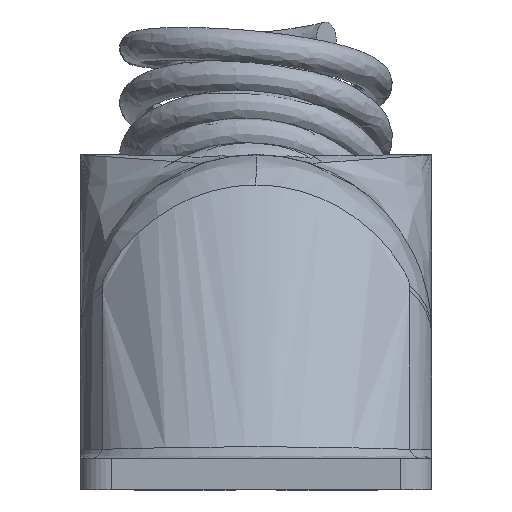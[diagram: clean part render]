
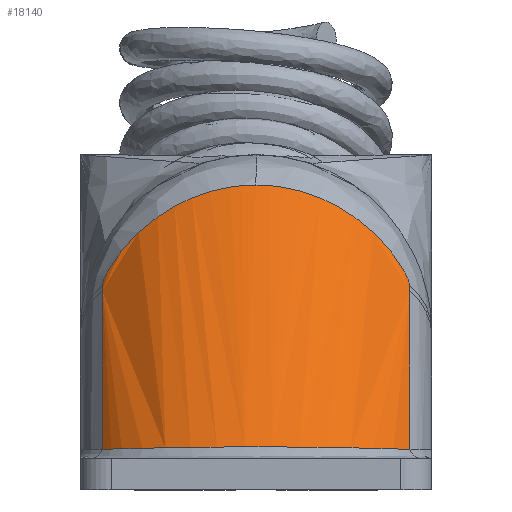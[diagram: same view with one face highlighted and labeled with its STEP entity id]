
A CAD part, left-side view. The second image highlights one B-rep face of the part: STEP entity #18140.
In plain terms, the highlighted free-form (B-spline) face has degree [1, 2] with [2, 9] control points.
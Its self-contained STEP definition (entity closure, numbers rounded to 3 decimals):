
#16518=CARTESIAN_POINT('',(21.853,7.44,1.964));
#16519=VERTEX_POINT('',#16518);
#16737=CARTESIAN_POINT('',(21.853,-7.44,1.964));
#16738=VERTEX_POINT('',#16737);
#16747=CARTESIAN_POINT('',(21.853,-7.44,1.964));
#16748=CARTESIAN_POINT('',(21.843,-7.434,1.964));
#16749=CARTESIAN_POINT('',(21.834,-7.429,1.964));
#16750=CARTESIAN_POINT('',(21.296,-7.123,1.975));
#16751=CARTESIAN_POINT('',(20.806,-6.766,1.986));
#16752=CARTESIAN_POINT('',(20.004,-6.039,2.006));
#16753=CARTESIAN_POINT('',(19.676,-5.683,2.015));
#16754=CARTESIAN_POINT('',(19.087,-4.925,2.032));
#16755=CARTESIAN_POINT('',(18.826,-4.522,2.039));
#16756=CARTESIAN_POINT('',(18.377,-3.68,2.054));
#16757=CARTESIAN_POINT('',(18.188,-3.242,2.06));
#16758=CARTESIAN_POINT('',(17.887,-2.342,2.072));
#16759=CARTESIAN_POINT('',(17.773,-1.88,2.076));
#16760=CARTESIAN_POINT('',(17.623,-0.946,2.084));
#16761=CARTESIAN_POINT('',(17.549,0.,2.088));
#16762=CARTESIAN_POINT('',(17.623,0.946,2.084));
#16763=CARTESIAN_POINT('',(17.773,1.88,2.076));
#16764=CARTESIAN_POINT('',(17.887,2.342,2.072));
#16765=CARTESIAN_POINT('',(18.188,3.242,2.06));
#16766=CARTESIAN_POINT('',(18.377,3.68,2.054));
#16767=CARTESIAN_POINT('',(18.826,4.522,2.039));
#16768=CARTESIAN_POINT('',(19.087,4.925,2.032));
#16769=CARTESIAN_POINT('',(19.676,5.683,2.015));
#16770=CARTESIAN_POINT('',(20.004,6.039,2.006));
#16771=CARTESIAN_POINT('',(20.806,6.766,1.986));
#16772=CARTESIAN_POINT('',(21.296,7.123,1.975));
#16773=CARTESIAN_POINT('',(21.834,7.429,1.964));
#16774=CARTESIAN_POINT('',(21.843,7.434,1.964));
#16775=CARTESIAN_POINT('',(21.853,7.44,1.964));
#16776=B_SPLINE_CURVE_WITH_KNOTS('',3,(#16747,#16748,#16749,#16750,#16751,#16752,#16753,#16754,#16755,#16756,#16757,#16758,#16759,#16760,#16761,#16762,#16763,#16764,#16765,#16766,#16767,#16768,#16769,#16770,#16771,#16772,#16773,#16774,#16775),.UNSPECIFIED.,.F.,.U.,(4,2,2,2,2,2,2,1,2,2,2,2,2,2,4),(-2.496,-2.493,-2.292,-2.128,-1.963,-1.797,-1.632,-1.467,-1.302,-1.136,-0.971,-0.806,-0.642,-0.441,-0.437),.UNSPECIFIED.);
#16777=EDGE_CURVE('',#16738,#16519,#16776,.T.);
#17455=CARTESIAN_POINT('',(29.523,-7.44,9.634));
#17456=VERTEX_POINT('',#17455);
#17464=CARTESIAN_POINT('',(21.853,-7.44,1.964));
#17465=DIRECTION('',(0.707,0.,0.707));
#17466=VECTOR('',#17465,10.848);
#17467=LINE('',#17464,#17466);
#17468=EDGE_CURVE('',#16738,#17456,#17467,.T.);
#17624=CARTESIAN_POINT('',(30.236,0.,14.736));
#17625=VERTEX_POINT('',#17624);
#17633=CARTESIAN_POINT('',(29.756,-7.431,9.884));
#17634=VERTEX_POINT('',#17633);
#17635=CARTESIAN_POINT('',(29.756,-7.431,9.884));
#17636=CARTESIAN_POINT('',(29.941,-7.416,10.095));
#17637=CARTESIAN_POINT('',(30.047,-7.097,10.779));
#17638=CARTESIAN_POINT('',(30.104,-6.022,12.221));
#17639=CARTESIAN_POINT('',(30.179,-4.209,13.744));
#17640=CARTESIAN_POINT('',(30.228,-1.932,14.605));
#17641=CARTESIAN_POINT('',(30.236,-0.484,14.736));
#17642=CARTESIAN_POINT('',(30.236,0.,14.736));
#17643=B_SPLINE_CURVE_WITH_KNOTS('',3,(#17635,#17636,#17637,#17638,#17639,#17640,#17641,#17642),.UNSPECIFIED.,.F.,.U.,(4,1,1,1,1,4),(0.0,0.084,0.168,0.336,0.504,0.588),.UNSPECIFIED.);
#17644=EDGE_CURVE('',#17634,#17625,#17643,.T.);
#17695=CARTESIAN_POINT('',(29.523,-7.44,9.634));
#17696=CARTESIAN_POINT('',(29.603,-7.44,9.715));
#17697=CARTESIAN_POINT('',(29.681,-7.436,9.798));
#17698=CARTESIAN_POINT('',(29.756,-7.431,9.884));
#17699=B_SPLINE_CURVE_WITH_KNOTS('',3,(#17695,#17696,#17697,#17698),.UNSPECIFIED.,.F.,.U.,(4,4),(0.,0.034),.UNSPECIFIED.);
#17700=EDGE_CURVE('',#17456,#17634,#17699,.T.);
#18014=CARTESIAN_POINT('',(29.756,7.431,9.884));
#18015=VERTEX_POINT('',#18014);
#18023=CARTESIAN_POINT('',(29.756,7.431,9.884));
#18024=CARTESIAN_POINT('',(29.941,7.416,10.095));
#18025=CARTESIAN_POINT('',(30.047,7.097,10.779));
#18026=CARTESIAN_POINT('',(30.104,6.022,12.221));
#18027=CARTESIAN_POINT('',(30.179,4.209,13.744));
#18028=CARTESIAN_POINT('',(30.228,1.932,14.605));
#18029=CARTESIAN_POINT('',(30.236,0.484,14.736));
#18030=CARTESIAN_POINT('',(30.236,0.,14.736));
#18031=B_SPLINE_CURVE_WITH_KNOTS('',3,(#18023,#18024,#18025,#18026,#18027,#18028,#18029,#18030),.UNSPECIFIED.,.F.,.U.,(4,1,1,1,1,4),(0.0,0.084,0.168,0.336,0.504,0.588),.UNSPECIFIED.);
#18032=EDGE_CURVE('',#18015,#17625,#18031,.T.);
#18056=CARTESIAN_POINT('',(29.523,7.44,9.634));
#18057=VERTEX_POINT('',#18056);
#18065=CARTESIAN_POINT('',(29.523,7.44,9.634));
#18066=CARTESIAN_POINT('',(29.603,7.44,9.715));
#18067=CARTESIAN_POINT('',(29.681,7.436,9.798));
#18068=CARTESIAN_POINT('',(29.756,7.431,9.884));
#18069=B_SPLINE_CURVE_WITH_KNOTS('',3,(#18065,#18066,#18067,#18068),.UNSPECIFIED.,.F.,.U.,(4,4),(0.,0.034),.UNSPECIFIED.);
#18070=EDGE_CURVE('',#18057,#18015,#18069,.T.);
#18089=CARTESIAN_POINT('',(21.853,7.44,1.964));
#18090=DIRECTION('',(0.707,0.,0.707));
#18091=VECTOR('',#18090,10.848);
#18092=LINE('',#18089,#18091);
#18093=EDGE_CURVE('',#16519,#18057,#18092,.T.);
#18105=CARTESIAN_POINT('',(21.756,8.5,-2.244));
#18106=CARTESIAN_POINT('',(34.486,8.5,10.486));
#18107=CARTESIAN_POINT('',(26.006,8.5,-6.494));
#18108=CARTESIAN_POINT('',(38.736,8.5,6.236));
#18109=CARTESIAN_POINT('',(26.006,0.,-6.494));
#18110=CARTESIAN_POINT('',(38.736,0.,6.236));
#18111=CARTESIAN_POINT('',(26.006,-8.5,-6.494));
#18112=CARTESIAN_POINT('',(38.736,-8.5,6.236));
#18113=CARTESIAN_POINT('',(21.756,-8.5,-2.244));
#18114=CARTESIAN_POINT('',(34.486,-8.5,10.486));
#18115=CARTESIAN_POINT('',(17.506,-8.5,2.006));
#18116=CARTESIAN_POINT('',(30.236,-8.5,14.736));
#18117=CARTESIAN_POINT('',(17.506,0.,2.006));
#18118=CARTESIAN_POINT('',(30.236,0.,14.736));
#18119=CARTESIAN_POINT('',(17.506,8.5,2.006));
#18120=CARTESIAN_POINT('',(30.236,8.5,14.736));
#18121=CARTESIAN_POINT('',(21.756,8.5,-2.244));
#18122=CARTESIAN_POINT('',(34.486,8.5,10.486));
#18130=(BOUNDED_SURFACE()B_SPLINE_SURFACE(1,2,((#18105,#18107,#18109,#18111,#18113,#18115,#18117,#18119,#18121),(#18106,#18108,#18110,#18112,#18114,#18116,#18118,#18120,#18122)),.UNSPECIFIED.,.F.,.T.,.U.)B_SPLINE_SURFACE_WITH_KNOTS((2,2),(3,2,2,2,3),(-1.654,0.463),(0.0,13.352,26.704,40.055,53.407),.UNSPECIFIED.)GEOMETRIC_REPRESENTATION_ITEM()RATIONAL_B_SPLINE_SURFACE(((1.0,0.707,1.0,0.707,1.0,0.707,1.0,0.707,1.0),(1.0,0.707,1.0,0.707,1.0,0.707,1.0,0.707,1.0)))REPRESENTATION_ITEM('')SURFACE());
#18131=ORIENTED_EDGE('',*,*,#16777,.F.);
#18132=ORIENTED_EDGE('',*,*,#17468,.T.);
#18133=ORIENTED_EDGE('',*,*,#17700,.T.);
#18134=ORIENTED_EDGE('',*,*,#17644,.T.);
#18135=ORIENTED_EDGE('',*,*,#18032,.F.);
#18136=ORIENTED_EDGE('',*,*,#18070,.F.);
#18137=ORIENTED_EDGE('',*,*,#18093,.F.);
#18138=EDGE_LOOP('',(#18131,#18132,#18133,#18134,#18135,#18136,#18137));
#18139=FACE_OUTER_BOUND('',#18138,.T.);
#18140=ADVANCED_FACE('',(#18139),#18130,.T.);
